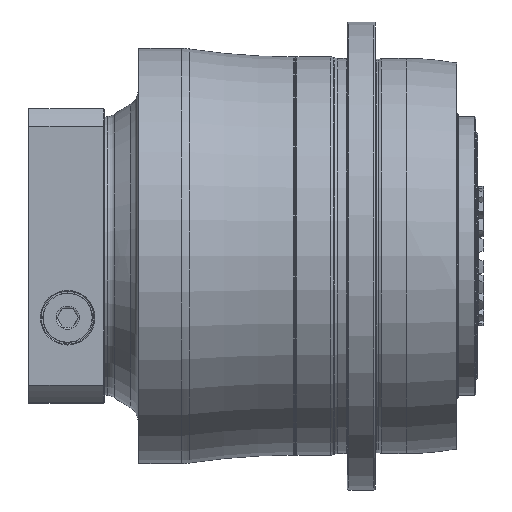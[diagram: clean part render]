
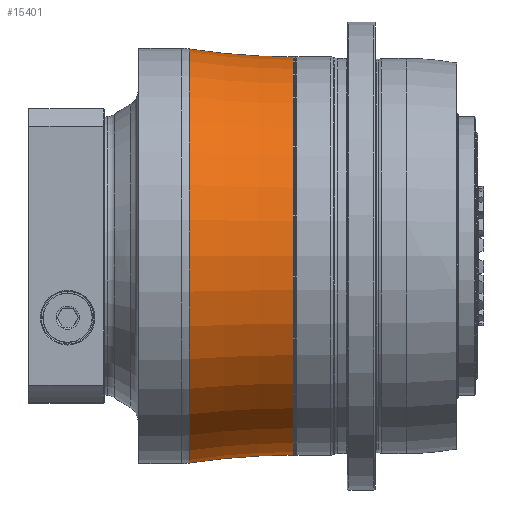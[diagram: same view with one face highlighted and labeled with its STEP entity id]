
A CAD part, top view. The second image highlights one B-rep face of the part: STEP entity #15401.
In plain terms, the highlighted toroidal (fillet/blend) face has major radius 570.364 mm and minor radius 441.864 mm.
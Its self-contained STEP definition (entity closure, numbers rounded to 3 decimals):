
#14867=CARTESIAN_POINT('',(-55.084,0.,0.));
#14868=DIRECTION('',(1.,0.,0.));
#14869=DIRECTION('',(0.,1.,0.));
#14870=AXIS2_PLACEMENT_3D('',#14867,#14868,#14869);
#14872=CARTESIAN_POINT('',(-122.,0.,0.));
#14873=DIRECTION('',(1.,0.,0.));
#14874=DIRECTION('',(0.,1.,0.));
#14875=AXIS2_PLACEMENT_3D('',#14872,#14873,#14874);
#14930=CARTESIAN_POINT('',(-122.,570.364,0.));
#14931=DIRECTION('',(0.,0.,1.));
#14932=DIRECTION('',(0.,-1.,0.));
#14933=AXIS2_PLACEMENT_3D('',#14930,#14931,#14932);
#14940=CARTESIAN_POINT('',(-122.,-570.364,0.));
#14941=DIRECTION('',(0.,0.,-1.));
#14942=DIRECTION('',(0.,1.,0.));
#14943=AXIS2_PLACEMENT_3D('',#14940,#14941,#14942);
#15085=CARTESIAN_POINT('',(-122.,128.5,0.));
#15086=VERTEX_POINT('',#15085);
#15087=CARTESIAN_POINT('',(-122.,-128.5,0.));
#15088=VERTEX_POINT('',#15087);
#15133=CARTESIAN_POINT('',(-55.084,133.596,
0.));
#15134=CARTESIAN_POINT('',(-55.084,-133.596,0.));
#15135=VERTEX_POINT('',#15133);
#15136=VERTEX_POINT('',#15134);
#15387=CARTESIAN_POINT('',(-122.,0.,0.));
#15388=DIRECTION('',(1.,0.,0.));
#15389=DIRECTION('',(0.,-1.,0.));
#15390=AXIS2_PLACEMENT_3D('',#15387,#15388,#15389);
#15391=TOROIDAL_SURFACE('',#15390,570.364,441.864);
#15393=ORIENTED_EDGE('',*,*,#15392,.T.);
#15395=ORIENTED_EDGE('',*,*,#15394,.F.);
#15396=ORIENTED_EDGE('',*,*,#15381,.F.);
#15398=ORIENTED_EDGE('',*,*,#15397,.T.);
#15399=EDGE_LOOP('',(#15393,#15395,#15396,#15398));
#15400=FACE_OUTER_BOUND('',#15399,.F.);
#15401=ADVANCED_FACE('',(#15400),#15391,.F.);
#14871=CIRCLE('',#14870,133.596);
#14876=CIRCLE('',#14875,128.5);
#14934=CIRCLE('',#14933,441.864);
#14944=CIRCLE('',#14943,441.864);
#15381=EDGE_CURVE('',#15086,#15088,#14876,.T.);
#15392=EDGE_CURVE('',#15135,#15136,#14871,.T.);
#15394=EDGE_CURVE('',#15088,#15136,#14944,.T.);
#15397=EDGE_CURVE('',#15086,#15135,#14934,.T.);
